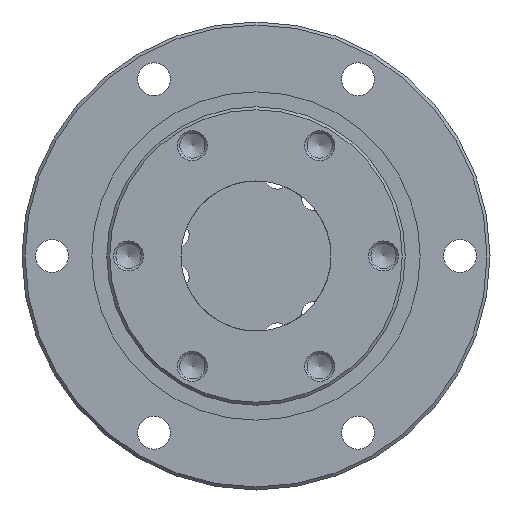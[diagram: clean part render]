
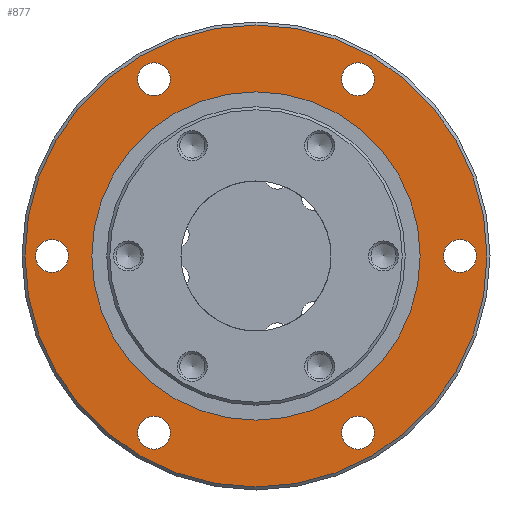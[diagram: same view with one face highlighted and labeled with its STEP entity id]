
A CAD part, left-side view. The second image highlights one B-rep face of the part: STEP entity #877.
In plain terms, the highlighted planar face has unit normal (-1, 0, 0).
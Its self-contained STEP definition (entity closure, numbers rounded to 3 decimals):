
#65=PLANE('',#1007);
#185=ORIENTED_EDGE('',*,*,#335,.F.);
#186=ORIENTED_EDGE('',*,*,#336,.F.);
#187=ORIENTED_EDGE('',*,*,#337,.F.);
#188=ORIENTED_EDGE('',*,*,#338,.F.);
#189=ORIENTED_EDGE('',*,*,#339,.F.);
#190=ORIENTED_EDGE('',*,*,#340,.F.);
#191=ORIENTED_EDGE('',*,*,#341,.F.);
#192=ORIENTED_EDGE('',*,*,#334,.T.);
#334=EDGE_CURVE('',#417,#417,#506,.T.);
#335=EDGE_CURVE('',#418,#418,#507,.T.);
#336=EDGE_CURVE('',#419,#419,#508,.F.);
#337=EDGE_CURVE('',#420,#420,#509,.F.);
#338=EDGE_CURVE('',#421,#421,#510,.F.);
#339=EDGE_CURVE('',#422,#422,#511,.F.);
#340=EDGE_CURVE('',#423,#423,#512,.F.);
#341=EDGE_CURVE('',#424,#424,#513,.F.);
#417=VERTEX_POINT('',#1528);
#418=VERTEX_POINT('',#1531);
#419=VERTEX_POINT('',#1533);
#420=VERTEX_POINT('',#1535);
#421=VERTEX_POINT('',#1537);
#422=VERTEX_POINT('',#1539);
#423=VERTEX_POINT('',#1541);
#424=VERTEX_POINT('',#1543);
#506=CIRCLE('',#1006,54.725);
#507=CIRCLE('',#1008,77.);
#508=CIRCLE('',#1009,5.5);
#509=CIRCLE('',#1010,5.5);
#510=CIRCLE('',#1011,5.5);
#511=CIRCLE('',#1012,5.5);
#512=CIRCLE('',#1013,5.5);
#513=CIRCLE('',#1014,5.5);
#584=EDGE_LOOP('',(#185));
#585=EDGE_LOOP('',(#186));
#586=EDGE_LOOP('',(#187));
#587=EDGE_LOOP('',(#188));
#588=EDGE_LOOP('',(#189));
#589=EDGE_LOOP('',(#190));
#590=EDGE_LOOP('',(#191));
#591=EDGE_LOOP('',(#192));
#716=FACE_BOUND('',#584,.T.);
#717=FACE_BOUND('',#585,.T.);
#718=FACE_BOUND('',#586,.T.);
#719=FACE_BOUND('',#587,.T.);
#720=FACE_BOUND('',#588,.T.);
#721=FACE_BOUND('',#589,.T.);
#722=FACE_BOUND('',#590,.T.);
#723=FACE_BOUND('',#591,.T.);
#877=ADVANCED_FACE('',(#716,#717,#718,#719,#720,#721,#722,#723),#65,.F.);
#1006=AXIS2_PLACEMENT_3D('',#1527,#1228,#1229);
#1007=AXIS2_PLACEMENT_3D('',#1529,#1230,#1231);
#1008=AXIS2_PLACEMENT_3D('',#1530,#1232,#1233);
#1009=AXIS2_PLACEMENT_3D('',#1532,#1234,#1235);
#1010=AXIS2_PLACEMENT_3D('',#1534,#1236,#1237);
#1011=AXIS2_PLACEMENT_3D('',#1536,#1238,#1239);
#1012=AXIS2_PLACEMENT_3D('',#1538,#1240,#1241);
#1013=AXIS2_PLACEMENT_3D('',#1540,#1242,#1243);
#1014=AXIS2_PLACEMENT_3D('',#1542,#1244,#1245);
#1228=DIRECTION('',(1.,0.,0.));
#1229=DIRECTION('',(0.,0.,-1.));
#1230=DIRECTION('',(1.,0.,0.));
#1231=DIRECTION('',(0.,0.,-1.));
#1232=DIRECTION('',(1.,0.,0.));
#1233=DIRECTION('',(0.,0.,-1.));
#1234=DIRECTION('',(1.,0.,0.));
#1235=DIRECTION('',(0.,0.,-1.));
#1236=DIRECTION('',(1.,0.,0.));
#1237=DIRECTION('',(0.,0.,-1.));
#1238=DIRECTION('',(1.,0.,0.));
#1239=DIRECTION('',(0.,0.,-1.));
#1240=DIRECTION('',(1.,0.,0.));
#1241=DIRECTION('',(0.,0.,-1.));
#1242=DIRECTION('',(1.,0.,0.));
#1243=DIRECTION('',(0.,0.,-1.));
#1244=DIRECTION('',(1.,0.,0.));
#1245=DIRECTION('',(0.,0.,-1.));
#1527=CARTESIAN_POINT('',(25.,0.,0.));
#1528=CARTESIAN_POINT('',(25.,0.,-54.725));
#1529=CARTESIAN_POINT('',(25.,54.725,0.));
#1530=CARTESIAN_POINT('',(25.,0.,0.));
#1531=CARTESIAN_POINT('',(25.,0.,-77.));
#1532=CARTESIAN_POINT('',(25.,68.,0.));
#1533=CARTESIAN_POINT('',(25.,68.,-5.5));
#1534=CARTESIAN_POINT('',(25.,34.,-58.89));
#1535=CARTESIAN_POINT('',(25.,34.,-64.39));
#1536=CARTESIAN_POINT('',(25.,-34.,-58.89));
#1537=CARTESIAN_POINT('',(25.,-34.,-64.39));
#1538=CARTESIAN_POINT('',(25.,-68.,0.));
#1539=CARTESIAN_POINT('',(25.,-68.,-5.5));
#1540=CARTESIAN_POINT('',(25.,-34.,58.89));
#1541=CARTESIAN_POINT('',(25.,-34.,53.39));
#1542=CARTESIAN_POINT('',(25.,34.,58.89));
#1543=CARTESIAN_POINT('',(25.,34.,53.39));
